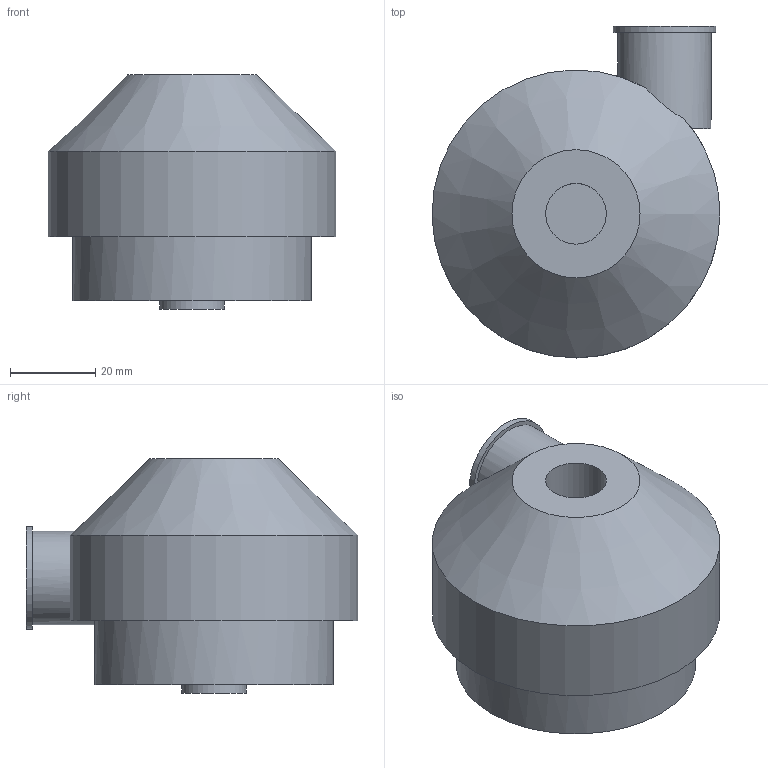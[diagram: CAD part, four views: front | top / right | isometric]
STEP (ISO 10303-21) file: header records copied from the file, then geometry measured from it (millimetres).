
FILE_DESCRIPTION(('FreeCAD Model'),'2;1');
FILE_NAME('Open CASCADE Shape Model','2026-10-19T19:41:49',('FreeCAD'),( 'FreeCAD'),'Open CASCADE STEP processor 7.8','FreeCAD','Unknown');
FILE_SCHEMA(('AUTOMOTIVE_DESIGN { 1 0 10303 214 1 1 1 1 }'));
Length unit declared in the file: millimetre
Products named in the file (1): Open CASCADE STEP translator 7.8 12
Bounding box: 67.41 x 77.7 x 54.9 mm (x, y, z)
Volume: 136327.2 mm3; surface area: 20020.1 mm2
Topology: 1 solids, 1 shells, 24 faces, 49 edges, 33 vertices
Faces by surface type: plane 13, cylinder 10, cone 1
Full cylindrical faces by diameter (mm): 3 x3, 14.2 x1, 15 x1, 18 x1, 21.9 x1, 24 x1, 56 x1
Entity records: 799 total; most frequent: CARTESIAN_POINT 259, DIRECTION 118, ORIENTED_EDGE 98, AXIS2_PLACEMENT_3D 51, EDGE_CURVE 49, VERTEX_POINT 33, FACE_BOUND 32, EDGE_LOOP 32
